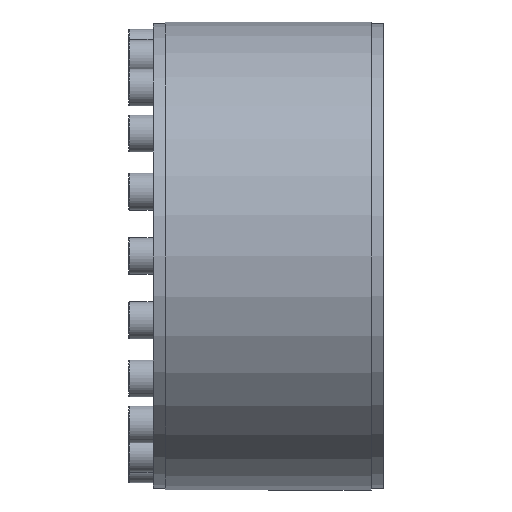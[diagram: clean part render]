
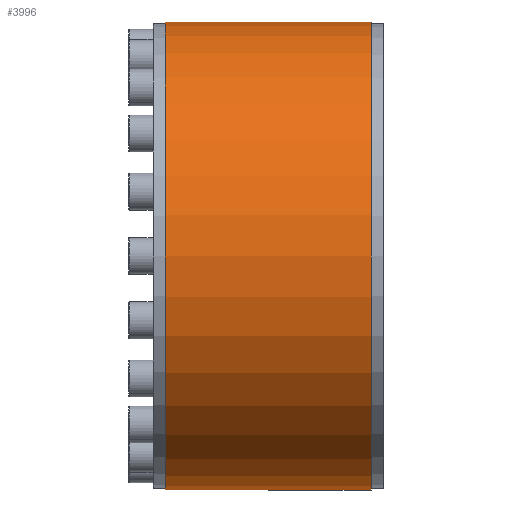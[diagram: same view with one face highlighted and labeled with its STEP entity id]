
A CAD part, left-side view. The second image highlights one B-rep face of the part: STEP entity #3996.
In plain terms, the highlighted cylindrical face has radius 152.5 mm (diameter 305 mm), a partial arc.
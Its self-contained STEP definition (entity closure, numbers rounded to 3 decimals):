
#104 = DIRECTION ( 'NONE',  ( 0., -1., 0. ) ) ;
#285 = DIRECTION ( 'NONE',  ( 0., -1., 0. ) ) ;
#529 = CARTESIAN_POINT ( 'NONE',  ( 0., 0., 0. ) ) ;
#767 = DIRECTION ( 'NONE',  ( 0., -1., 0. ) ) ;
#881 = LINE ( 'NONE', #5720, #5568 ) ;
#920 = AXIS2_PLACEMENT_3D ( 'NONE', #3588, #285, #1922 ) ;
#946 = ORIENTED_EDGE ( 'NONE', *, *, #6260, .F. ) ;
#1066 = CARTESIAN_POINT ( 'NONE',  ( 0., -67., 152.5 ) ) ;
#1316 = VERTEX_POINT ( 'NONE', #1571 ) ;
#1510 = AXIS2_PLACEMENT_3D ( 'NONE', #529, #3867, #5507 ) ;
#1571 = CARTESIAN_POINT ( 'NONE',  ( 0., -67., -152.5 ) ) ;
#1729 = VERTEX_POINT ( 'NONE', #4141 ) ;
#1922 = DIRECTION ( 'NONE',  ( 0., 0., -1. ) ) ;
#2052 = ORIENTED_EDGE ( 'NONE', *, *, #6596, .T. ) ;
#2266 = CIRCLE ( 'NONE', #7027, 152.5 ) ;
#2272 = DIRECTION ( 'NONE',  ( 0., 0., -1. ) ) ;
#2545 = VERTEX_POINT ( 'NONE', #1066 ) ;
#2796 = CYLINDRICAL_SURFACE ( 'NONE', #1510, 152.5 ) ;
#2812 = CIRCLE ( 'NONE', #920, 152.5 ) ;
#3153 = ORIENTED_EDGE ( 'NONE', *, *, #3210, .F. ) ;
#3210 = EDGE_CURVE ( 'NONE', #2545, #1316, #2812, .T. ) ;
#3588 = CARTESIAN_POINT ( 'NONE',  ( 0., -67., 0. ) ) ;
#3842 = CARTESIAN_POINT ( 'NONE',  ( 0., 0., 152.5 ) ) ;
#3867 = DIRECTION ( 'NONE',  ( 0., -1., 0. ) ) ;
#3996 = ADVANCED_FACE ( 'NONE', ( #6554 ), #2796, .T. ) ;
#4001 = CARTESIAN_POINT ( 'NONE',  ( 0., 67., 0. ) ) ;
#4067 = VECTOR ( 'NONE', #4418, 1000. ) ;
#4141 = CARTESIAN_POINT ( 'NONE',  ( 0., 67., 152.5 ) ) ;
#4271 = ORIENTED_EDGE ( 'NONE', *, *, #4731, .T. ) ;
#4418 = DIRECTION ( 'NONE',  ( 0., -1., 0. ) ) ;
#4701 = CARTESIAN_POINT ( 'NONE',  ( 0., 67., -152.5 ) ) ;
#4731 = EDGE_CURVE ( 'NONE', #1729, #4894, #2266, .T. ) ;
#4894 = VERTEX_POINT ( 'NONE', #4701 ) ;
#5507 = DIRECTION ( 'NONE',  ( 0., 0., -1. ) ) ;
#5568 = VECTOR ( 'NONE', #767, 1000. ) ;
#5720 = CARTESIAN_POINT ( 'NONE',  ( 0., 0., -152.5 ) ) ;
#5784 = EDGE_LOOP ( 'NONE', ( #946, #4271, #2052, #3153 ) ) ;
#6260 = EDGE_CURVE ( 'NONE', #1729, #2545, #6348, .T. ) ;
#6348 = LINE ( 'NONE', #3842, #4067 ) ;
#6554 = FACE_OUTER_BOUND ( 'NONE', #5784, .T. ) ;
#6596 = EDGE_CURVE ( 'NONE', #4894, #1316, #881, .T. ) ;
#7027 = AXIS2_PLACEMENT_3D ( 'NONE', #4001, #104, #2272 ) ;
